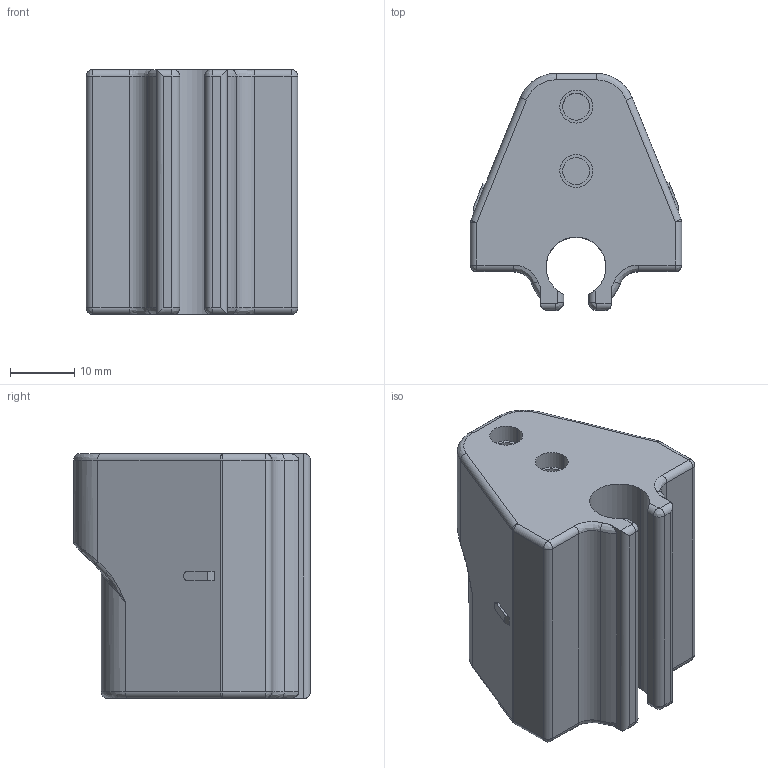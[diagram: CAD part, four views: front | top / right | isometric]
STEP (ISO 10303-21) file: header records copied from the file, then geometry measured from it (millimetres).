
FILE_DESCRIPTION (( 'STEP AP203' ), '1' );
FILE_NAME ('PKIT723x.STEP', '2018-12-17T13:19:27', ( '' ), ( '' ), 'SwSTEP 2.0', 'SolidWorks 2019', '' );
FILE_SCHEMA (( 'CONFIG_CONTROL_DESIGN' ));
Length unit declared in the file: millimetre
Products named in the file (1): PKIT723x
Bounding box: 32.8 x 36.75 x 38 mm (x, y, z)
Volume: 26550 mm3; surface area: 7978.8 mm2
Topology: 1 solids, 2 shells, 130 faces, 300 edges, 174 vertices
Faces by surface type: cylinder 61, plane 39, bspline 30
Entity records: 4423 total; most frequent: CARTESIAN_POINT 1588, ORIENTED_EDGE 584, DIRECTION 564, EDGE_CURVE 292, AXIS2_PLACEMENT_3D 211, VERTEX_POINT 174, LINE 142, VECTOR 142
